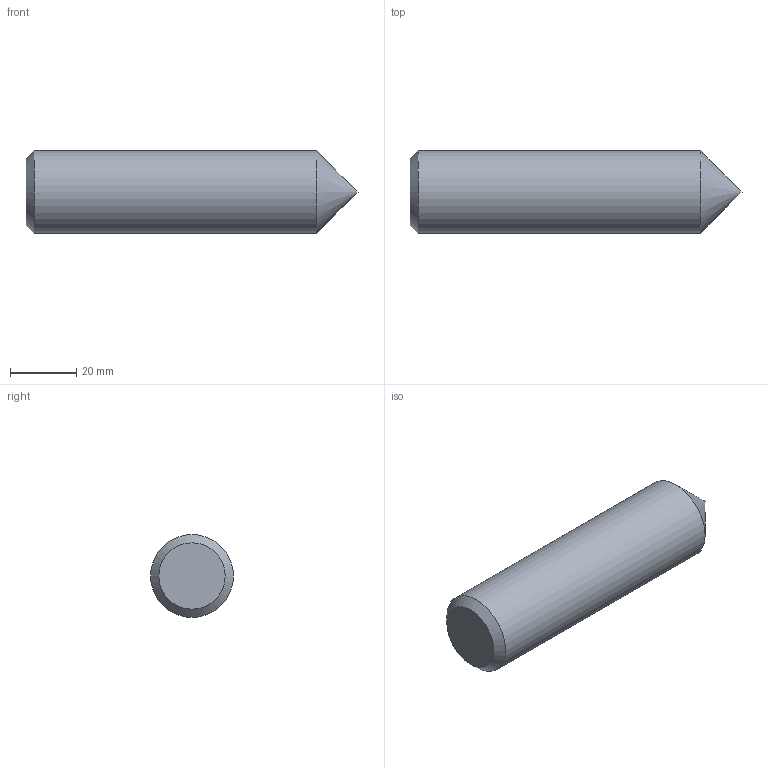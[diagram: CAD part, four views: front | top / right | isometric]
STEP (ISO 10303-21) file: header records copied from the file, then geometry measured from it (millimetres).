
FILE_DESCRIPTION (( 'STEP AP214' ), '1' );
FILE_NAME ('1883.STEP', '2021-06-07T08:16:22', ( '' ), ( '' ), 'SwSTEP 2.0', 'SolidWorks 2014', '' );
FILE_SCHEMA (( 'AUTOMOTIVE_DESIGN' ));
Length unit declared in the file: millimetre
Products named in the file (1): 1883
Bounding box: 100 x 25 x 25 mm (x, y, z)
Volume: 44767.7 mm3; surface area: 8915.9 mm2
Topology: 2 solids, 2 shells, 6 faces, 8 edges, 5 vertices
Faces by surface type: plane 3, cone 2, cylinder 1
Full cylindrical faces by diameter (mm): 25 x1
Entity records: 191 total; most frequent: DIRECTION 22, CARTESIAN_POINT 15, AXIS2_PLACEMENT_3D 11, UNCERTAINTY_MEASURE_WITH_UNIT 8, EDGE_LOOP 8, ORIENTED_EDGE 8, PRESENTATION_LAYER_ASSIGNMENT 7, FILL_AREA_STYLE_COLOUR 7
